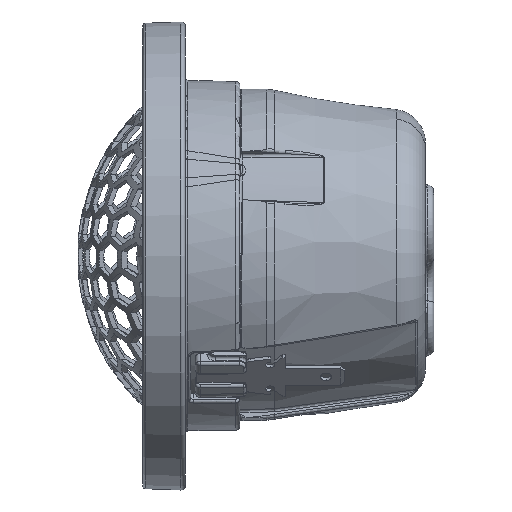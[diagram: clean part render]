
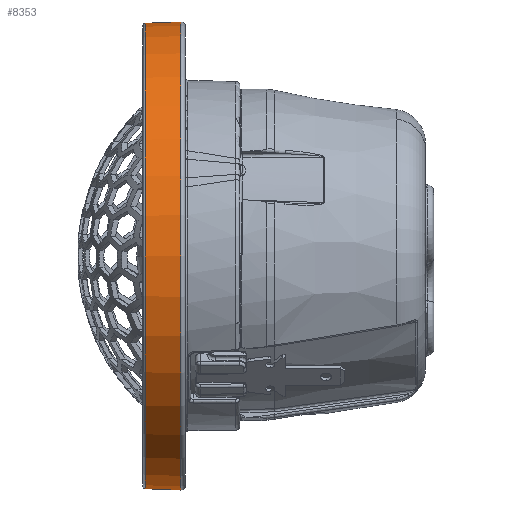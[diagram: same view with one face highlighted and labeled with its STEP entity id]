
A CAD part, left-side view. The second image highlights one B-rep face of the part: STEP entity #8353.
In plain terms, the highlighted conical face has half-angle 2 degrees and reference radius 27.65 mm.
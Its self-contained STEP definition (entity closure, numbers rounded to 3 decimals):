
#174 = DIRECTION ( 'NONE',  ( 0., -0.999, -0.035 ) ) ;
#871 = CARTESIAN_POINT ( 'NONE',  ( 0., 14.299, 0. ) ) ;
#1914 = DIRECTION ( 'NONE',  ( 0., -1., 0. ) ) ;
#5101 = VERTEX_POINT ( 'NONE', #55610 ) ;
#6612 = EDGE_CURVE ( 'NONE', #27842, #65221, #21996, .T. ) ;
#8353 = ADVANCED_FACE ( 'NONE', ( #67177 ), #43758, .T. ) ;
#10175 = CARTESIAN_POINT ( 'NONE',  ( 0., 14.299, 27.65 ) ) ;
#10395 = VERTEX_POINT ( 'NONE', #36544 ) ;
#11477 = DIRECTION ( 'NONE',  ( 0., 1., 0. ) ) ;
#15627 = DIRECTION ( 'NONE',  ( 0., -1., 0. ) ) ;
#17345 = CARTESIAN_POINT ( 'NONE',  ( 0., 19.01, -27.486 ) ) ;
#21123 = ORIENTED_EDGE ( 'NONE', *, *, #35643, .F. ) ;
#21996 = LINE ( 'NONE', #28439, #42455 ) ;
#23533 = ORIENTED_EDGE ( 'NONE', *, *, #29899, .T. ) ;
#27579 = ORIENTED_EDGE ( 'NONE', *, *, #62173, .T. ) ;
#27842 = VERTEX_POINT ( 'NONE', #17345 ) ;
#28439 = CARTESIAN_POINT ( 'NONE',  ( 0., 14.299, -27.65 ) ) ;
#29899 = EDGE_CURVE ( 'NONE', #5101, #27842, #32019, .T. ) ;
#32019 = CIRCLE ( 'NONE', #33182, 27.486 ) ;
#33182 = AXIS2_PLACEMENT_3D ( 'NONE', #65117, #15627, #37558 ) ;
#34512 = DIRECTION ( 'NONE',  ( 0., 0., 1. ) ) ;
#34948 = DIRECTION ( 'NONE',  ( 0., 0., -1. ) ) ;
#35643 = EDGE_CURVE ( 'NONE', #5101, #10395, #47870, .T. ) ;
#36544 = CARTESIAN_POINT ( 'NONE',  ( 0., 14.817, 27.632 ) ) ;
#37558 = DIRECTION ( 'NONE',  ( 0., 0., -1. ) ) ;
#42455 = VECTOR ( 'NONE', #174, 1000. ) ;
#43758 = CONICAL_SURFACE ( 'NONE', #52897, 27.65, 0.035 ) ;
#45083 = CIRCLE ( 'NONE', #64481, 27.632 ) ;
#47870 = LINE ( 'NONE', #10175, #57916 ) ;
#50269 = CARTESIAN_POINT ( 'NONE',  ( 0., 14.817, 0. ) ) ;
#52897 = AXIS2_PLACEMENT_3D ( 'NONE', #871, #1914, #34948 ) ;
#54009 = CARTESIAN_POINT ( 'NONE',  ( 0., 14.817, -27.632 ) ) ;
#55610 = CARTESIAN_POINT ( 'NONE',  ( 0., 19.01, 27.486 ) ) ;
#57916 = VECTOR ( 'NONE', #58978, 1000. ) ;
#58978 = DIRECTION ( 'NONE',  ( 0., -0.999, 0.035 ) ) ;
#59782 = EDGE_LOOP ( 'NONE', ( #21123, #23533, #70661, #27579 ) ) ;
#62173 = EDGE_CURVE ( 'NONE', #65221, #10395, #45083, .T. ) ;
#64481 = AXIS2_PLACEMENT_3D ( 'NONE', #50269, #11477, #34512 ) ;
#65117 = CARTESIAN_POINT ( 'NONE',  ( 0., 19.01, 0. ) ) ;
#65221 = VERTEX_POINT ( 'NONE', #54009 ) ;
#67177 = FACE_OUTER_BOUND ( 'NONE', #59782, .T. ) ;
#70661 = ORIENTED_EDGE ( 'NONE', *, *, #6612, .T. ) ;
